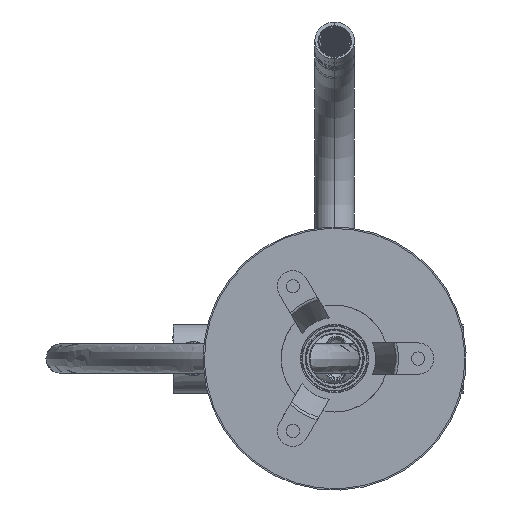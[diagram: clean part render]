
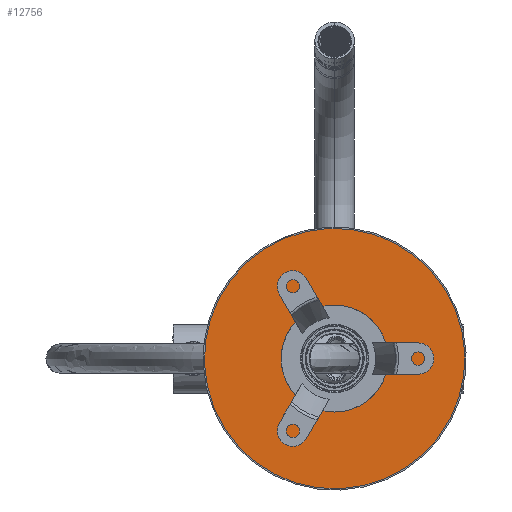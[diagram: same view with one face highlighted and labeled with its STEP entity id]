
A CAD part, front view. The second image highlights one B-rep face of the part: STEP entity #12756.
In plain terms, the highlighted planar face has unit normal (0, -1, 0).
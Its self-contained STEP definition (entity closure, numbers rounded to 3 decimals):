
#913 = CARTESIAN_POINT ( 'NONE',  ( 0., 49.2, 0. ) ) ;
#3153 = DIRECTION ( 'NONE',  ( 0., 1., 0. ) ) ;
#6578 = DIRECTION ( 'NONE',  ( 0., 1., 0. ) ) ;
#8302 = VERTEX_POINT ( 'NONE', #148164 ) ;
#12756 = ADVANCED_FACE ( 'NONE', ( #59078, #165723 ), #121439, .F. ) ;
#15746 = CARTESIAN_POINT ( 'NONE',  ( 0., 49.2, 21.436 ) ) ;
#17670 = VERTEX_POINT ( 'NONE', #15746 ) ;
#19353 = EDGE_CURVE ( 'NONE', #8302, #17670, #156062, .T. ) ;
#31928 = CARTESIAN_POINT ( 'NONE',  ( 0., 49.2, 79.2 ) ) ;
#33974 = AXIS2_PLACEMENT_3D ( 'NONE', #144775, #64672, #158198 ) ;
#39950 = EDGE_LOOP ( 'NONE', ( #85548, #139951 ) ) ;
#41322 = DIRECTION ( 'NONE',  ( 0., 1., 0. ) ) ;
#45174 = EDGE_CURVE ( 'NONE', #105074, #105953, #111715, .T. ) ;
#54019 = AXIS2_PLACEMENT_3D ( 'NONE', #83320, #3153, #96810 ) ;
#59078 = FACE_OUTER_BOUND ( 'NONE', #39950, .T. ) ;
#64393 = AXIS2_PLACEMENT_3D ( 'NONE', #86733, #6578, #100232 ) ;
#64672 = DIRECTION ( 'NONE',  ( 0., -1., 0. ) ) ;
#67713 = DIRECTION ( 'NONE',  ( 0., -1., 0. ) ) ;
#67726 = ORIENTED_EDGE ( 'NONE', *, *, #19353, .F. ) ;
#81208 = ORIENTED_EDGE ( 'NONE', *, *, #82909, .F. ) ;
#82909 = EDGE_CURVE ( 'NONE', #17670, #8302, #127997, .T. ) ;
#83320 = CARTESIAN_POINT ( 'NONE',  ( 0., 49.2, 0. ) ) ;
#85346 = AXIS2_PLACEMENT_3D ( 'NONE', #147827, #67713, #161232 ) ;
#85548 = ORIENTED_EDGE ( 'NONE', *, *, #45174, .F. ) ;
#86733 = CARTESIAN_POINT ( 'NONE',  ( 0., 49.2, 0. ) ) ;
#96810 = DIRECTION ( 'NONE',  ( 0., 0., 1. ) ) ;
#97574 = EDGE_CURVE ( 'NONE', #105953, #105074, #121631, .T. ) ;
#100232 = DIRECTION ( 'NONE',  ( 0., 0., 1. ) ) ;
#105074 = VERTEX_POINT ( 'NONE', #115382 ) ;
#105953 = VERTEX_POINT ( 'NONE', #31928 ) ;
#108646 = EDGE_LOOP ( 'NONE', ( #67726, #81208 ) ) ;
#111715 = CIRCLE ( 'NONE', #54019, 79.2 ) ;
#115382 = CARTESIAN_POINT ( 'NONE',  ( 0., 49.2, -79.2 ) ) ;
#121439 = PLANE ( 'NONE',  #147698 ) ;
#121631 = CIRCLE ( 'NONE', #64393, 79.2 ) ;
#127997 = CIRCLE ( 'NONE', #85346, 21.436 ) ;
#134902 = DIRECTION ( 'NONE',  ( 0., 0., 1. ) ) ;
#139951 = ORIENTED_EDGE ( 'NONE', *, *, #97574, .F. ) ;
#144775 = CARTESIAN_POINT ( 'NONE',  ( 0., 49.2, 0. ) ) ;
#147698 = AXIS2_PLACEMENT_3D ( 'NONE', #913, #41322, #134902 ) ;
#147827 = CARTESIAN_POINT ( 'NONE',  ( 0., 49.2, 0. ) ) ;
#148164 = CARTESIAN_POINT ( 'NONE',  ( 0., 49.2, -21.436 ) ) ;
#156062 = CIRCLE ( 'NONE', #33974, 21.436 ) ;
#158198 = DIRECTION ( 'NONE',  ( 0., 0., 1. ) ) ;
#161232 = DIRECTION ( 'NONE',  ( 0., 0., 1. ) ) ;
#165723 = FACE_BOUND ( 'NONE', #108646, .T. ) ;
